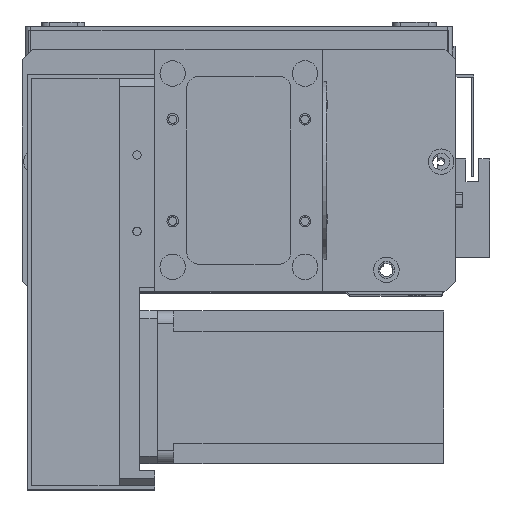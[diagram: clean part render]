
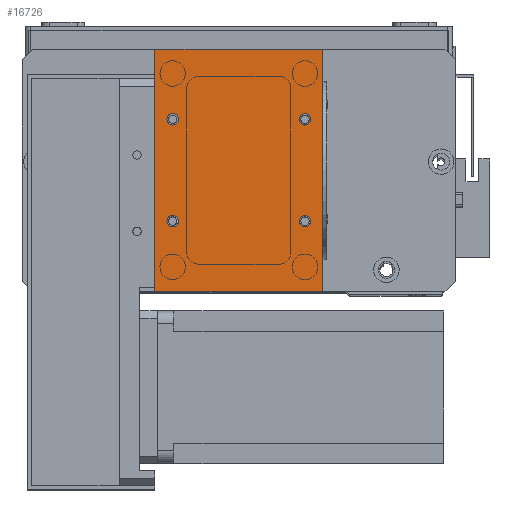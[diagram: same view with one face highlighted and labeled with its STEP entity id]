
A CAD part, top view. The second image highlights one B-rep face of the part: STEP entity #16726.
In plain terms, the highlighted planar face has unit normal (0, 0, 1).
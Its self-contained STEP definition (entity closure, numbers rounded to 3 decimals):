
#66 = EDGE_CURVE ( 'NONE', #18832, #637, #15922, .T. ) ;
#363 = CARTESIAN_POINT ( 'NONE',  ( 0., 95., 2. ) ) ;
#623 = DIRECTION ( 'NONE',  ( 0., 0., 1. ) ) ;
#637 = VERTEX_POINT ( 'NONE', #27246 ) ;
#646 = EDGE_LOOP ( 'NONE', ( #1649, #16166 ) ) ;
#697 = DIRECTION ( 'NONE',  ( 1., 0., 0. ) ) ;
#1240 = AXIS2_PLACEMENT_3D ( 'NONE', #9173, #25863, #11559 ) ;
#1562 = CARTESIAN_POINT ( 'NONE',  ( 7., 67.5, 2. ) ) ;
#1649 = ORIENTED_EDGE ( 'NONE', *, *, #4903, .F. ) ;
#1825 = CARTESIAN_POINT ( 'NONE',  ( 7., 27.5, 2. ) ) ;
#2150 = CARTESIAN_POINT ( 'NONE',  ( 4.75, 27.5, 2. ) ) ;
#3235 = CIRCLE ( 'NONE', #10903, 2.25 ) ;
#3336 = LINE ( 'NONE', #16147, #14557 ) ;
#3480 = VERTEX_POINT ( 'NONE', #20571 ) ;
#3981 = DIRECTION ( 'NONE',  ( 1., 0., 0. ) ) ;
#4238 = DIRECTION ( 'NONE',  ( 1., 0., 0. ) ) ;
#4676 = CARTESIAN_POINT ( 'NONE',  ( 61.25, 27.5, 2. ) ) ;
#4903 = EDGE_CURVE ( 'NONE', #7131, #5014, #28000, .T. ) ;
#4925 = EDGE_CURVE ( 'NONE', #3480, #22862, #3336, .T. ) ;
#4971 = CARTESIAN_POINT ( 'NONE',  ( 56.75, 67.5, 2. ) ) ;
#4993 = AXIS2_PLACEMENT_3D ( 'NONE', #14217, #30888, #16638 ) ;
#5014 = VERTEX_POINT ( 'NONE', #2150 ) ;
#5185 = FACE_BOUND ( 'NONE', #7635, .T. ) ;
#5841 = CARTESIAN_POINT ( 'NONE',  ( 59., 27.5, 2. ) ) ;
#6126 = VECTOR ( 'NONE', #27118, 1000. ) ;
#6180 = EDGE_CURVE ( 'NONE', #12538, #7183, #27239, .T. ) ;
#6336 = VECTOR ( 'NONE', #9981, 1000. ) ;
#7007 = AXIS2_PLACEMENT_3D ( 'NONE', #29304, #15001, #697 ) ;
#7131 = VERTEX_POINT ( 'NONE', #28057 ) ;
#7183 = VERTEX_POINT ( 'NONE', #4676 ) ;
#7635 = EDGE_LOOP ( 'NONE', ( #30003, #28194 ) ) ;
#7758 = DIRECTION ( 'NONE',  ( 0., 1., 0. ) ) ;
#8057 = CARTESIAN_POINT ( 'NONE',  ( 66., 0., 2. ) ) ;
#8234 = DIRECTION ( 'NONE',  ( 1., 0., 0. ) ) ;
#8329 = AXIS2_PLACEMENT_3D ( 'NONE', #13703, #30384, #16108 ) ;
#8496 = EDGE_CURVE ( 'NONE', #14606, #25350, #25232, .T. ) ;
#8593 = EDGE_CURVE ( 'NONE', #7183, #12538, #9522, .T. ) ;
#9173 = CARTESIAN_POINT ( 'NONE',  ( 7., 67.5, 2. ) ) ;
#9522 = CIRCLE ( 'NONE', #29035, 2.25 ) ;
#9981 = DIRECTION ( 'NONE',  ( -1., 0., 0. ) ) ;
#10869 = ORIENTED_EDGE ( 'NONE', *, *, #18312, .T. ) ;
#10903 = AXIS2_PLACEMENT_3D ( 'NONE', #1562, #18287, #3981 ) ;
#11511 = FACE_BOUND ( 'NONE', #23311, .T. ) ;
#11559 = DIRECTION ( 'NONE',  ( 1., 0., 0. ) ) ;
#11944 = EDGE_LOOP ( 'NONE', ( #30059, #12674, #13707, #10869 ) ) ;
#12445 = ORIENTED_EDGE ( 'NONE', *, *, #28256, .F. ) ;
#12538 = VERTEX_POINT ( 'NONE', #27790 ) ;
#12561 = VERTEX_POINT ( 'NONE', #23074 ) ;
#12674 = ORIENTED_EDGE ( 'NONE', *, *, #29560, .T. ) ;
#12694 = LINE ( 'NONE', #363, #6336 ) ;
#12784 = CARTESIAN_POINT ( 'NONE',  ( 0., 0., 2. ) ) ;
#13018 = FACE_BOUND ( 'NONE', #16436, .T. ) ;
#13703 = CARTESIAN_POINT ( 'NONE',  ( 59., 67.5, 2. ) ) ;
#13707 = ORIENTED_EDGE ( 'NONE', *, *, #66, .T. ) ;
#14217 = CARTESIAN_POINT ( 'NONE',  ( 59., 27.5, 2. ) ) ;
#14557 = VECTOR ( 'NONE', #28045, 1000. ) ;
#14606 = VERTEX_POINT ( 'NONE', #4971 ) ;
#14925 = CARTESIAN_POINT ( 'NONE',  ( 59., 67.5, 2. ) ) ;
#15001 = DIRECTION ( 'NONE',  ( 0., 0., 1. ) ) ;
#15433 = CIRCLE ( 'NONE', #8329, 2.25 ) ;
#15720 = CARTESIAN_POINT ( 'NONE',  ( 0., 0., 2. ) ) ;
#15741 = CARTESIAN_POINT ( 'NONE',  ( 9.25, 67.5, 2. ) ) ;
#15922 = LINE ( 'NONE', #8057, #22252 ) ;
#16108 = DIRECTION ( 'NONE',  ( 1., 0., 0. ) ) ;
#16147 = CARTESIAN_POINT ( 'NONE',  ( 0., 0., 2. ) ) ;
#16166 = ORIENTED_EDGE ( 'NONE', *, *, #19611, .F. ) ;
#16244 = AXIS2_PLACEMENT_3D ( 'NONE', #14925, #623, #17352 ) ;
#16436 = EDGE_LOOP ( 'NONE', ( #27247, #12445 ) ) ;
#16638 = DIRECTION ( 'NONE',  ( 1., 0., 0. ) ) ;
#16726 = ADVANCED_FACE ( 'NONE', ( #13018, #5185, #11511, #29809, #17137 ), #17706, .F. ) ;
#17137 = FACE_OUTER_BOUND ( 'NONE', #11944, .T. ) ;
#17352 = DIRECTION ( 'NONE',  ( 1., 0., 0. ) ) ;
#17706 = PLANE ( 'NONE',  #18007 ) ;
#18007 = AXIS2_PLACEMENT_3D ( 'NONE', #20098, #19894, #22479 ) ;
#18287 = DIRECTION ( 'NONE',  ( 0., 0., 1. ) ) ;
#18312 = EDGE_CURVE ( 'NONE', #637, #3480, #12694, .T. ) ;
#18488 = ORIENTED_EDGE ( 'NONE', *, *, #6180, .F. ) ;
#18557 = DIRECTION ( 'NONE',  ( 0., 0., 1. ) ) ;
#18832 = VERTEX_POINT ( 'NONE', #19767 ) ;
#19611 = EDGE_CURVE ( 'NONE', #5014, #7131, #26462, .T. ) ;
#19767 = CARTESIAN_POINT ( 'NONE',  ( 66., 0., 2. ) ) ;
#19894 = DIRECTION ( 'NONE',  ( 0., 0., -1. ) ) ;
#20098 = CARTESIAN_POINT ( 'NONE',  ( 0., 0., 2. ) ) ;
#20571 = CARTESIAN_POINT ( 'NONE',  ( 0., 95., 2. ) ) ;
#21136 = EDGE_CURVE ( 'NONE', #26661, #12561, #29712, .T. ) ;
#22252 = VECTOR ( 'NONE', #7758, 1000. ) ;
#22479 = DIRECTION ( 'NONE',  ( -1., 0., 0. ) ) ;
#22532 = DIRECTION ( 'NONE',  ( 0., 0., 1. ) ) ;
#22862 = VERTEX_POINT ( 'NONE', #15720 ) ;
#23074 = CARTESIAN_POINT ( 'NONE',  ( 4.75, 67.5, 2. ) ) ;
#23311 = EDGE_LOOP ( 'NONE', ( #29659, #18488 ) ) ;
#24443 = LINE ( 'NONE', #12784, #6126 ) ;
#25232 = CIRCLE ( 'NONE', #16244, 2.25 ) ;
#25350 = VERTEX_POINT ( 'NONE', #25480 ) ;
#25480 = CARTESIAN_POINT ( 'NONE',  ( 61.25, 67.5, 2. ) ) ;
#25551 = AXIS2_PLACEMENT_3D ( 'NONE', #1825, #18557, #4238 ) ;
#25863 = DIRECTION ( 'NONE',  ( 0., 0., 1. ) ) ;
#26462 = CIRCLE ( 'NONE', #7007, 2.25 ) ;
#26661 = VERTEX_POINT ( 'NONE', #15741 ) ;
#27118 = DIRECTION ( 'NONE',  ( 1., 0., 0. ) ) ;
#27239 = CIRCLE ( 'NONE', #4993, 2.25 ) ;
#27246 = CARTESIAN_POINT ( 'NONE',  ( 66., 95., 2. ) ) ;
#27247 = ORIENTED_EDGE ( 'NONE', *, *, #21136, .F. ) ;
#27790 = CARTESIAN_POINT ( 'NONE',  ( 56.75, 27.5, 2. ) ) ;
#28000 = CIRCLE ( 'NONE', #25551, 2.25 ) ;
#28045 = DIRECTION ( 'NONE',  ( 0., -1., 0. ) ) ;
#28057 = CARTESIAN_POINT ( 'NONE',  ( 9.25, 27.5, 2. ) ) ;
#28194 = ORIENTED_EDGE ( 'NONE', *, *, #8496, .F. ) ;
#28256 = EDGE_CURVE ( 'NONE', #12561, #26661, #3235, .T. ) ;
#29035 = AXIS2_PLACEMENT_3D ( 'NONE', #5841, #22532, #8234 ) ;
#29304 = CARTESIAN_POINT ( 'NONE',  ( 7., 27.5, 2. ) ) ;
#29560 = EDGE_CURVE ( 'NONE', #22862, #18832, #24443, .T. ) ;
#29659 = ORIENTED_EDGE ( 'NONE', *, *, #8593, .F. ) ;
#29712 = CIRCLE ( 'NONE', #1240, 2.25 ) ;
#29809 = FACE_BOUND ( 'NONE', #646, .T. ) ;
#30003 = ORIENTED_EDGE ( 'NONE', *, *, #30352, .F. ) ;
#30059 = ORIENTED_EDGE ( 'NONE', *, *, #4925, .T. ) ;
#30352 = EDGE_CURVE ( 'NONE', #25350, #14606, #15433, .T. ) ;
#30384 = DIRECTION ( 'NONE',  ( 0., 0., 1. ) ) ;
#30888 = DIRECTION ( 'NONE',  ( 0., 0., 1. ) ) ;
